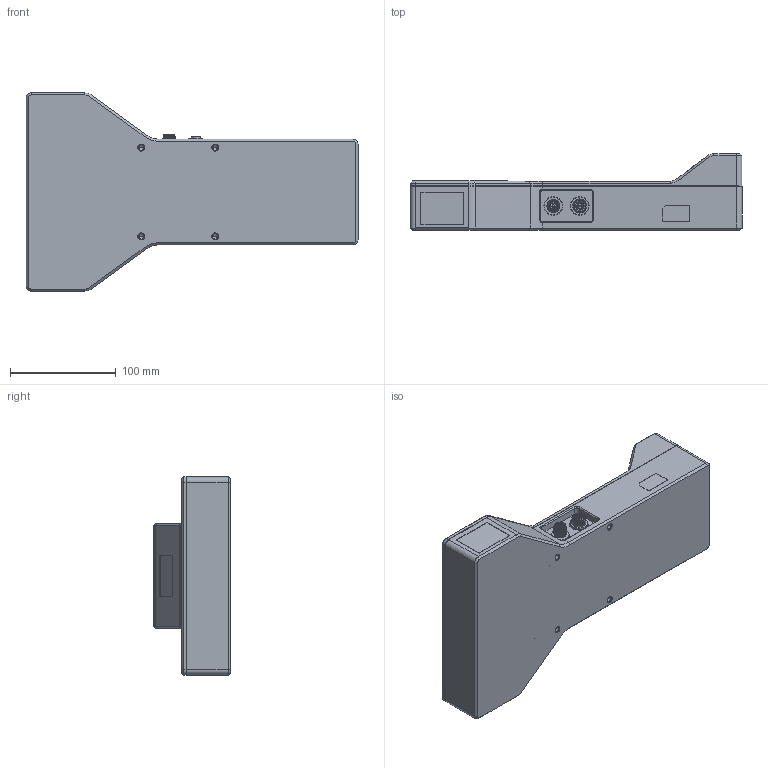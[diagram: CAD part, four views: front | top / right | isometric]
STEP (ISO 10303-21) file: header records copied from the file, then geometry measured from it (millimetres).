
FILE_DESCRIPTION((''),'2;1');
FILE_NAME('00-A0002_ASM','2022-01-04T14:10:28',('liudeting'),(''),'CREO PARAMETRIC BY PTC INC, 2017260','CREO PARAMETRIC BY PTC INC, 2017260','');
FILE_SCHEMA(('CONFIG_CONTROL_DESIGN'));
Products named in the file (10): DE-14-016732; DE-14-016498; DE-18-000074; FILTER_2; M12A-08PFFS-SH8BXX_1; M12A-12PMMS-SH8BXX_1; 00_ASM_ASM; DE-12-000423; SC-PM3X7_5T10-L4-SUS304-BZN_1; 00-A0002_ASM
Assembly tree (19 placements, depth 3):
  00-A0002_ASM
    00_ASM_ASM
      DE-14-016732
      DE-14-016498
      DE-18-000074
      FILTER_2
      M12A-08PFFS-SH8BXX_1
      M12A-12PMMS-SH8BXX_1
    DE-12-000423  x3
    SC-PM3X7_5T10-L4-SUS304-BZN_1  x9
Bounding box: 314 x 72.5 x 187.5 mm (x, y, z)
Volume: 609536.6 mm3; surface area: 287963.3 mm2
Topology: 18 solids, 49 shells, 2426 faces, 6451 edges, 4161 vertices
Faces by surface type: cylinder 988, plane 820, cone 255, extrusion 159, bspline 125, torus 53, sphere 26
Entity records: 76062 total; most frequent: CARTESIAN_POINT 27236, ORIENTED_EDGE 10150, DIRECTION 9945, EDGE_CURVE 5137, AXIS2_PLACEMENT_3D 3595, VERTEX_POINT 3369, VECTOR 2755, LINE 2644
